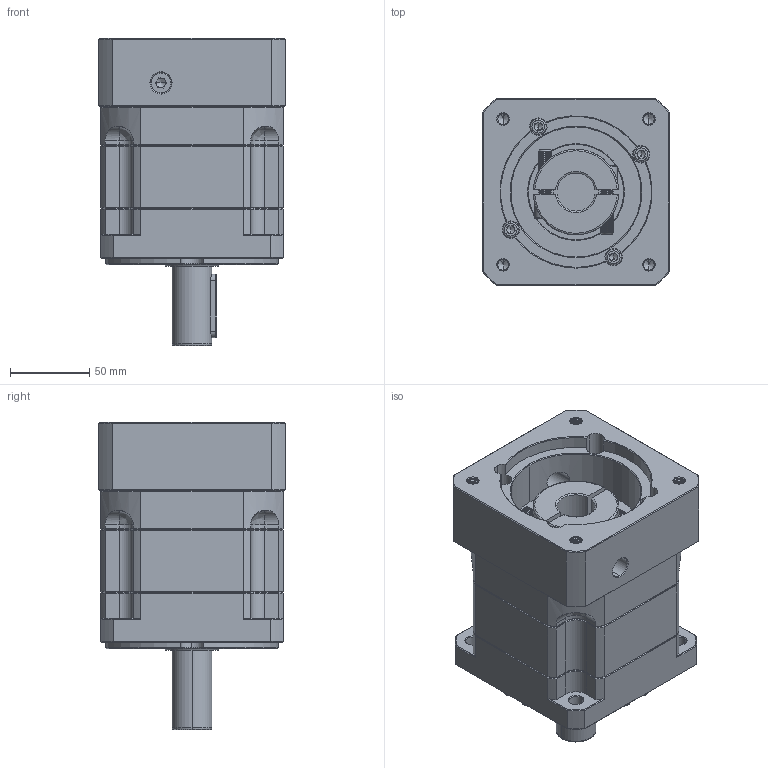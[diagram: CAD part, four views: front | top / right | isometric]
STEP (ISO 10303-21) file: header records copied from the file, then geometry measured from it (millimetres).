
FILE_DESCRIPTION (( 'STEP AP214' ), '1' );
FILE_NAME ('ZB115A-D25-L1-P2-24-95-130-M8.step', '2023-08-26T06:22:24', ( '' ), ( '' ), 'SwSTEP 2.0', 'SolidWorks 2016', '' );
FILE_SCHEMA (( 'AUTOMOTIVE_DESIGN' ));
Length unit declared in the file: millimetre
Products named in the file (1): ZB115A-D25-L1-P2-24-95-130-M8
Bounding box: 118 x 118 x 193.5 mm (x, y, z)
Volume: 1561645.8 mm3; surface area: 169310 mm2
Topology: 6 solids, 6 shells, 2401 faces, 6316 edges, 4011 vertices
Faces by surface type: plane 1144, cylinder 444, bspline 423, cone 370, torus 20
Entity records: 129522 total; most frequent: CARTESIAN_POINT 47446, ORIENTED_EDGE 12564, DIRECTION 9953, EDGE_CURVE 6282, VERTEX_POINT 4011, LINE 4003, VECTOR 4003, AXIS2_PLACEMENT_3D 2975
